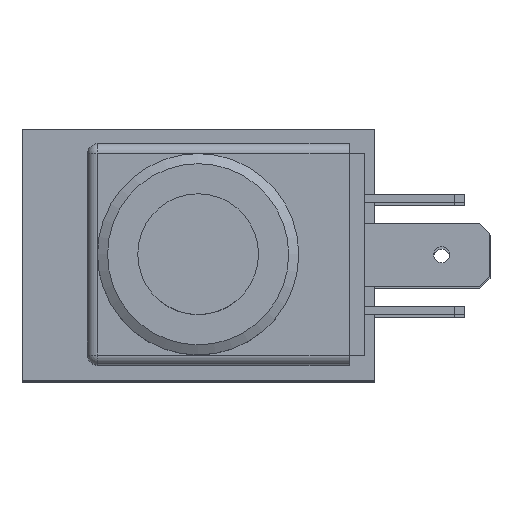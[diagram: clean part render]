
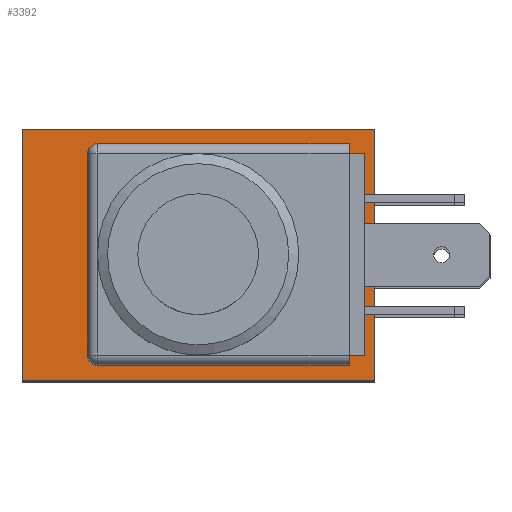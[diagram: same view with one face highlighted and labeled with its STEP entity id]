
A CAD part, top view. The second image highlights one B-rep face of the part: STEP entity #3392.
In plain terms, the highlighted planar face has unit normal (0, 0, 1).
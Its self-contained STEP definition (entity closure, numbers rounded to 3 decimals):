
#706=CARTESIAN_POINT('',(7.5,11.0,50.));
#707=VERTEX_POINT('',#706);
#714=CARTESIAN_POINT('',(-3.849,11.,50.));
#715=VERTEX_POINT('',#714);
#716=CARTESIAN_POINT('',(-3.849,11.,50.));
#717=DIRECTION('',(1.0,0.0,0.0));
#718=VECTOR('',#717,11.349);
#719=LINE('',#716,#718);
#720=EDGE_CURVE('',#715,#707,#719,.T.);
#745=CARTESIAN_POINT('',(-11.,3.849,50.));
#746=VERTEX_POINT('',#745);
#747=CARTESIAN_POINT('',(-11.,3.849,50.));
#748=DIRECTION('',(0.707,0.707,0.0));
#749=VECTOR('',#748,10.113);
#750=LINE('',#747,#749);
#751=EDGE_CURVE('',#746,#715,#750,.T.);
#776=CARTESIAN_POINT('',(-11.,-7.5,50.));
#777=VERTEX_POINT('',#776);
#778=CARTESIAN_POINT('',(-11.,-7.5,50.));
#779=DIRECTION('',(0.0,1.0,0.0));
#780=VECTOR('',#779,11.349);
#781=LINE('',#778,#780);
#782=EDGE_CURVE('',#777,#746,#781,.T.);
#829=CARTESIAN_POINT('',(-7.5,-11.,50.));
#830=VERTEX_POINT('',#829);
#831=CARTESIAN_POINT('',(-7.5,-7.5,50.));
#832=DIRECTION('',(0.0,0.0,-1.0));
#833=DIRECTION('',(0.0,-1.0,0.0));
#834=AXIS2_PLACEMENT_3D('',#831,#832,#833);
#835=CIRCLE('',#834,3.5);
#836=EDGE_CURVE('',#830,#777,#835,.T.);
#861=CARTESIAN_POINT('',(3.849,-11.,50.));
#862=VERTEX_POINT('',#861);
#863=CARTESIAN_POINT('',(3.849,-11.,50.));
#864=DIRECTION('',(-1.0,0.0,0.0));
#865=VECTOR('',#864,11.349);
#866=LINE('',#863,#865);
#867=EDGE_CURVE('',#862,#830,#866,.T.);
#892=CARTESIAN_POINT('',(11.,-3.849,50.));
#893=VERTEX_POINT('',#892);
#894=CARTESIAN_POINT('',(11.,-3.849,50.));
#895=DIRECTION('',(-0.707,-0.707,0.0));
#896=VECTOR('',#895,10.113);
#897=LINE('',#894,#896);
#898=EDGE_CURVE('',#893,#862,#897,.T.);
#923=CARTESIAN_POINT('',(11.,7.5,50.));
#924=VERTEX_POINT('',#923);
#925=CARTESIAN_POINT('',(11.,7.5,50.));
#926=DIRECTION('',(0.0,-1.0,0.0));
#927=VECTOR('',#926,11.349);
#928=LINE('',#925,#927);
#929=EDGE_CURVE('',#924,#893,#928,.T.);
#974=CARTESIAN_POINT('',(7.5,7.5,50.));
#975=DIRECTION('',(0.0,0.0,-1.0));
#976=DIRECTION('',(0.0,1.0,0.0));
#977=AXIS2_PLACEMENT_3D('',#974,#975,#976);
#978=CIRCLE('',#977,3.5);
#979=EDGE_CURVE('',#707,#924,#978,.T.);
#3252=CARTESIAN_POINT('',(17.49,-12.49,50.));
#3253=VERTEX_POINT('',#3252);
#3254=CARTESIAN_POINT('',(-17.49,-12.49,50.));
#3255=VERTEX_POINT('',#3254);
#3256=CARTESIAN_POINT('',(17.49,-12.49,50.));
#3257=DIRECTION('',(-1.0,0.0,0.0));
#3258=VECTOR('',#3257,34.98);
#3259=LINE('',#3256,#3258);
#3260=EDGE_CURVE('',#3253,#3255,#3259,.T.);
#3292=CARTESIAN_POINT('',(-17.49,12.49,50.));
#3293=VERTEX_POINT('',#3292);
#3294=CARTESIAN_POINT('',(-17.49,-12.49,50.));
#3295=DIRECTION('',(0.0,1.0,0.0));
#3296=VECTOR('',#3295,24.98);
#3297=LINE('',#3294,#3296);
#3298=EDGE_CURVE('',#3255,#3293,#3297,.T.);
#3323=CARTESIAN_POINT('',(17.49,12.49,50.));
#3324=VERTEX_POINT('',#3323);
#3325=CARTESIAN_POINT('',(-17.49,12.49,50.));
#3326=DIRECTION('',(1.0,0.0,0.0));
#3327=VECTOR('',#3326,34.98);
#3328=LINE('',#3325,#3327);
#3329=EDGE_CURVE('',#3293,#3324,#3328,.T.);
#3354=CARTESIAN_POINT('',(17.49,12.49,50.));
#3355=DIRECTION('',(0.0,-1.0,0.0));
#3356=VECTOR('',#3355,24.98);
#3357=LINE('',#3354,#3356);
#3358=EDGE_CURVE('',#3324,#3253,#3357,.T.);
#3371=CARTESIAN_POINT('',(0.,0.,50.));
#3372=DIRECTION('',(0.0,0.0,1.0));
#3373=DIRECTION('',(1.0,0.0,0.0));
#3374=AXIS2_PLACEMENT_3D('',#3371,#3372,#3373);
#3375=PLANE('',#3374);
#3376=ORIENTED_EDGE('',*,*,#3260,.F.);
#3377=ORIENTED_EDGE('',*,*,#3358,.F.);
#3378=ORIENTED_EDGE('',*,*,#3329,.F.);
#3379=ORIENTED_EDGE('',*,*,#3298,.F.);
#3380=EDGE_LOOP('',(#3376,#3377,#3378,#3379));
#3381=FACE_OUTER_BOUND('',#3380,.T.);
#3382=ORIENTED_EDGE('',*,*,#720,.T.);
#3383=ORIENTED_EDGE('',*,*,#979,.T.);
#3384=ORIENTED_EDGE('',*,*,#929,.T.);
#3385=ORIENTED_EDGE('',*,*,#898,.T.);
#3386=ORIENTED_EDGE('',*,*,#867,.T.);
#3387=ORIENTED_EDGE('',*,*,#836,.T.);
#3388=ORIENTED_EDGE('',*,*,#782,.T.);
#3389=ORIENTED_EDGE('',*,*,#751,.T.);
#3390=EDGE_LOOP('',(#3382,#3383,#3384,#3385,#3386,#3387,#3388,#3389));
#3391=FACE_BOUND('',#3390,.T.);
#3392=ADVANCED_FACE('',(#3381,#3391),#3375,.T.);
